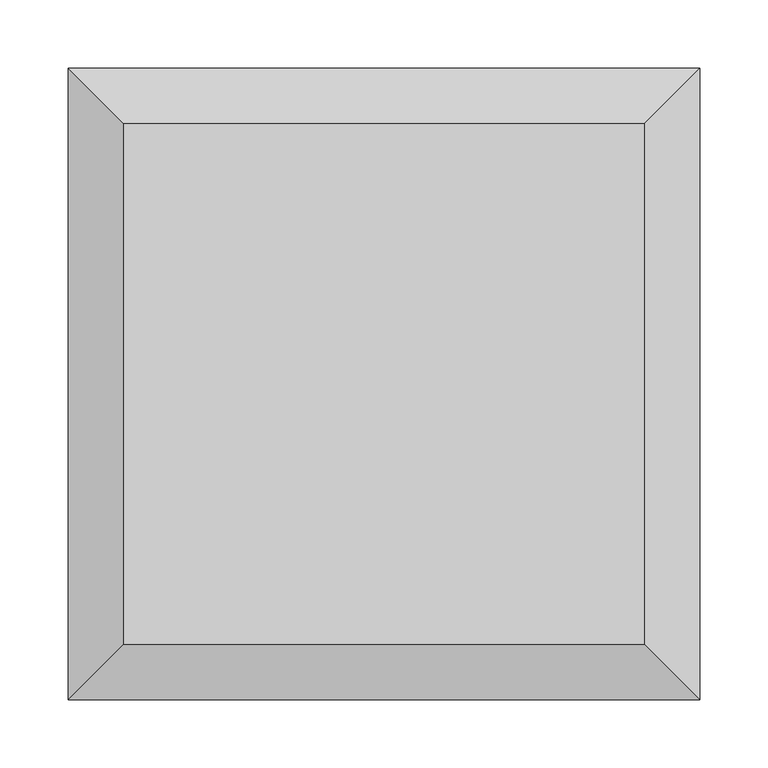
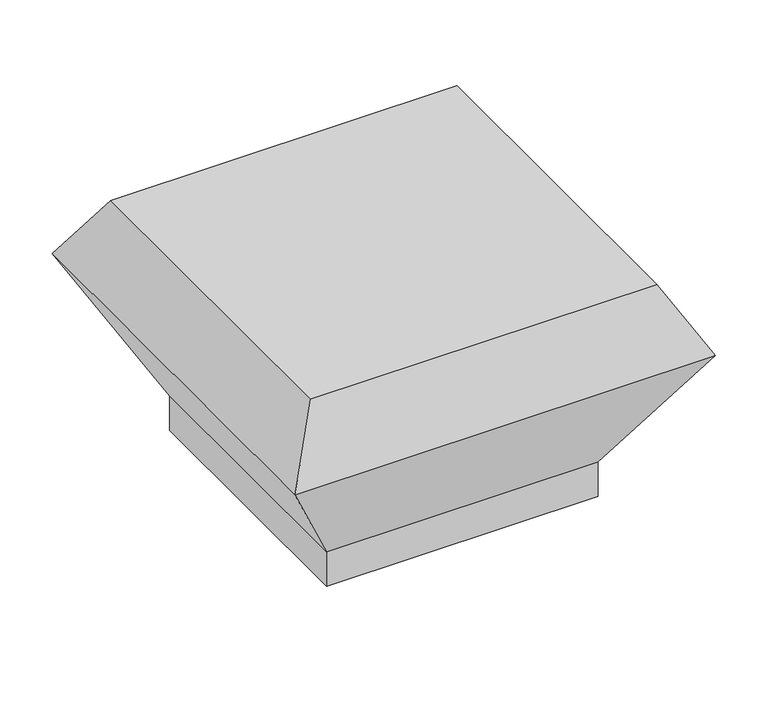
"""IFC4 building model written with IfcOpenShell, lengths in millimetres: proxy geometry, СВ_Вентилятор_КрышныйПрямоугольный_30-90_SVKR : SVKR 30/22.2E."""

from ifc_helpers import new_model, si_unit, origin, origin_with_axes, place, context, project, spatial, polyline, outline, extrude, faceted_brep, source, transform, mapped, element, save


def mechanical_equipment_ac5a58c9(model_context):
    return source(origin(), model_context, "Body", "SolidModel", [
        faceted_brep([(-232.0, -232.0, 185.3333333), (-232.0, 232.0, 185.3333333), (232.0, 232.0, 185.3333333), (232.0, -232.0, 185.3333333), (-191.0, -191.0, 258.0), (191.0, -191.0, 258.0), (191.0, 191.0, 258.0), (-191.0, 191.0, 258.0)], [[[0, 1, 2, 3]], [[4, 5, 6, 7]], [[5, 4, 0, 3]], [[6, 5, 3, 2]], [[7, 6, 2, 1]], [[4, 7, 1, 0]]]),
        faceted_brep([(232.0, 232.0, 185.3333333), (-232.0, 232.0, 185.3333333), (-232.0, -232.0, 185.3333333), (232.0, -232.0, 185.3333333), (150.0, 150.0, 40.0), (150.0, -150.0, 40.0), (-150.0, -150.0, 40.0), (-150.0, 150.0, 40.0)], [[[0, 1, 2, 3]], [[4, 5, 6, 7]], [[4, 7, 1, 0]], [[7, 6, 2, 1]], [[6, 5, 3, 2]], [[5, 4, 0, 3]]]),
        extrude(outline(polyline([(-150.0, -150.0), (-150.0, 150.0), (150.0, 150.0), (150.0, -150.0), (-150.0, -150.0)])), origin_with_axes(), (0.0, 0.0, 1.0), 40.0),
    ])


if __name__ == "__main__":
    model = new_model("IFC4")
    model_context = context("Model", 3, world=origin())
    ifc_project = project(units=[si_unit("LENGTHUNIT", "METRE", prefix="MILLI")], contexts=[model_context])
    site = spatial("IfcSite", under=ifc_project)
    building = spatial("IfcBuilding", under=site)
    placement = place(None, origin())
    mechanical_equipment_shape = mechanical_equipment_ac5a58c9(model_context)
    element("IfcBuildingElementProxy", 1, Name="СВ_Вентилятор_КрышныйПрямоугольный_30-90_SVKR : SVKR 30/22.2E", ObjectType="СВ_Вентилятор_КрышныйПрямоугольный_30-90_SVKR : SVKR 30/22.2E", at=placement, inside=building, context=model_context, shape_type="MappedRepresentation", body=[
        mapped(mechanical_equipment_shape, transform((0.0, 0.0, 0.0), x_axis=(1.0, 0.0, 0.0), y_axis=(0.0, 1.0, 0.0), z_axis=(0.0, 0.0, 1.0))),
    ])
    save(model, "model.ifc")
